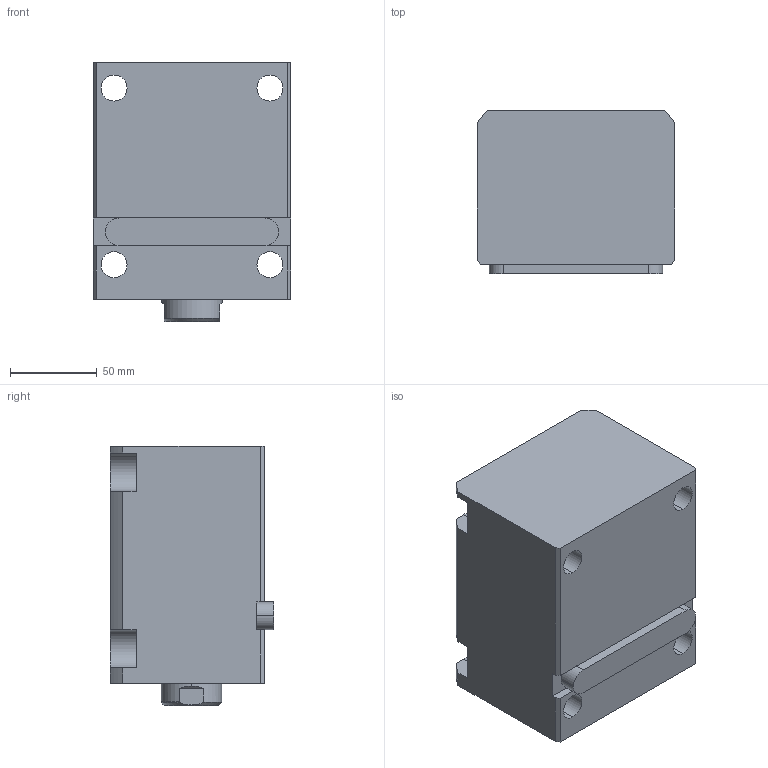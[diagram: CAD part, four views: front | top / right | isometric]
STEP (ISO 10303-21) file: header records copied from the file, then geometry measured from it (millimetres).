
FILE_DESCRIPTION (( 'STEP AP214' ), '1' );
FILE_NAME ('chtb-la63x70_asm.STEP', '2018-05-02T03:48:08', ( 'Windows' ), ( 'Microsoft' ), 'SwSTEP 2.0', 'SolidWorks 2015', '' );
FILE_SCHEMA (( 'AUTOMOTIVE_DESIGN' ));
Length unit declared in the file: millimetre
Products named in the file (5): CHTB-LA63X70NBT; CHTB-LA63PJ; CHTB63X70NHSG; CHTB-63QG; chtb-la63x70_asm
Assembly tree (4 placements, depth 2):
  chtb-la63x70_asm
    CHTB-63QG
    CHTB63X70NHSG
    CHTB-LA63PJ
    CHTB-LA63X70NBT
Bounding box: 114 x 94.5 x 150 mm (x, y, z)
Volume: 1160760.1 mm3; surface area: 166266.7 mm2
Topology: 4 solids, 4 shells, 174 faces, 510 edges, 348 vertices
Faces by surface type: cylinder 98, plane 45, bspline 12, cone 12, torus 7
Entity records: 18199 total; most frequent: CARTESIAN_POINT 13678, ORIENTED_EDGE 1008, DIRECTION 778, EDGE_CURVE 504, VERTEX_POINT 348, AXIS2_PLACEMENT_3D 295, EDGE_LOOP 198, VECTOR 188
